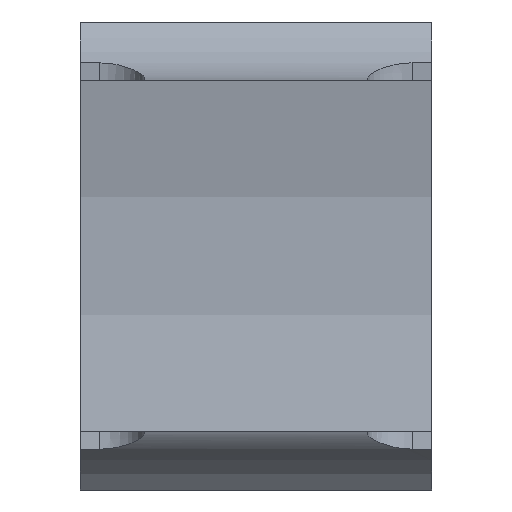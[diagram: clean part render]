
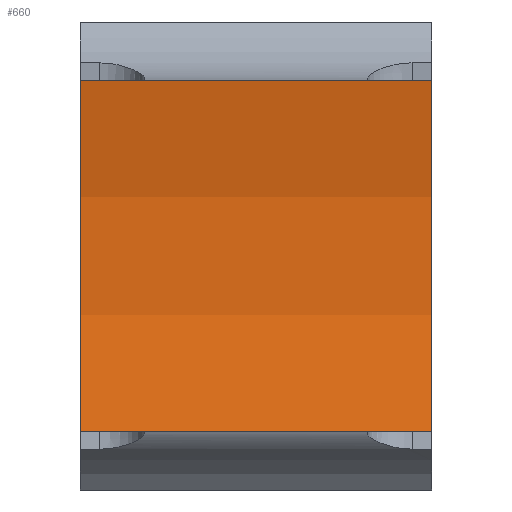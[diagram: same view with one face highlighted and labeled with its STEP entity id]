
A CAD part, front view. The second image highlights one B-rep face of the part: STEP entity #660.
In plain terms, the highlighted cylindrical face has radius 12 mm (diameter 24 mm), a partial arc.
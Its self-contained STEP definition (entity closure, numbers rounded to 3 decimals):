
#4 = VECTOR ( 'NONE', #539, 1000. ) ;
#42 = LINE ( 'NONE', #240, #726 ) ;
#47 = CYLINDRICAL_SURFACE ( 'NONE', #643, 12. ) ;
#59 = DIRECTION ( 'NONE',  ( 1., 0., 0. ) ) ;
#208 = VERTEX_POINT ( 'NONE', #490 ) ;
#240 = CARTESIAN_POINT ( 'NONE',  ( -3., 11.619, 3. ) ) ;
#253 = VERTEX_POINT ( 'NONE', #325 ) ;
#269 = DIRECTION ( 'NONE',  ( 0., 0., -1. ) ) ;
#311 = ORIENTED_EDGE ( 'NONE', *, *, #816, .T. ) ;
#321 = AXIS2_PLACEMENT_3D ( 'NONE', #498, #59, #381 ) ;
#325 = CARTESIAN_POINT ( 'NONE',  ( -3., 11.619, 3. ) ) ;
#354 = VERTEX_POINT ( 'NONE', #514 ) ;
#364 = EDGE_CURVE ( 'NONE', #208, #253, #443, .T. ) ;
#376 = EDGE_LOOP ( 'NONE', ( #626, #460, #311, #724 ) ) ;
#381 = DIRECTION ( 'NONE',  ( 0., 0., -1. ) ) ;
#403 = VERTEX_POINT ( 'NONE', #694 ) ;
#443 = CIRCLE ( 'NONE', #573, 12. ) ;
#459 = DIRECTION ( 'NONE',  ( 1., 0., 0. ) ) ;
#460 = ORIENTED_EDGE ( 'NONE', *, *, #578, .T. ) ;
#476 = DIRECTION ( 'NONE',  ( 1., 0., 0. ) ) ;
#480 = DIRECTION ( 'NONE',  ( -1., 0., 0. ) ) ;
#490 = CARTESIAN_POINT ( 'NONE',  ( -3., 11.619, -3. ) ) ;
#498 = CARTESIAN_POINT ( 'NONE',  ( 3., 0., 0. ) ) ;
#514 = CARTESIAN_POINT ( 'NONE',  ( 3., 11.619, 3. ) ) ;
#539 = DIRECTION ( 'NONE',  ( 1., 0., 0. ) ) ;
#573 = AXIS2_PLACEMENT_3D ( 'NONE', #703, #459, #269 ) ;
#578 = EDGE_CURVE ( 'NONE', #208, #403, #790, .T. ) ;
#608 = FACE_OUTER_BOUND ( 'NONE', #376, .T. ) ;
#626 = ORIENTED_EDGE ( 'NONE', *, *, #364, .F. ) ;
#643 = AXIS2_PLACEMENT_3D ( 'NONE', #719, #476, #657 ) ;
#657 = DIRECTION ( 'NONE',  ( 0., 0., -1. ) ) ;
#660 = ADVANCED_FACE ( 'NONE', ( #608 ), #47, .F. ) ;
#673 = CIRCLE ( 'NONE', #321, 12. ) ;
#694 = CARTESIAN_POINT ( 'NONE',  ( 3., 11.619, -3. ) ) ;
#703 = CARTESIAN_POINT ( 'NONE',  ( -3., 0., 0. ) ) ;
#710 = EDGE_CURVE ( 'NONE', #354, #253, #42, .T. ) ;
#719 = CARTESIAN_POINT ( 'NONE',  ( -3., 0., 0. ) ) ;
#724 = ORIENTED_EDGE ( 'NONE', *, *, #710, .T. ) ;
#726 = VECTOR ( 'NONE', #480, 1000. ) ;
#785 = CARTESIAN_POINT ( 'NONE',  ( -3., 11.619, -3. ) ) ;
#790 = LINE ( 'NONE', #785, #4 ) ;
#816 = EDGE_CURVE ( 'NONE', #403, #354, #673, .T. ) ;
